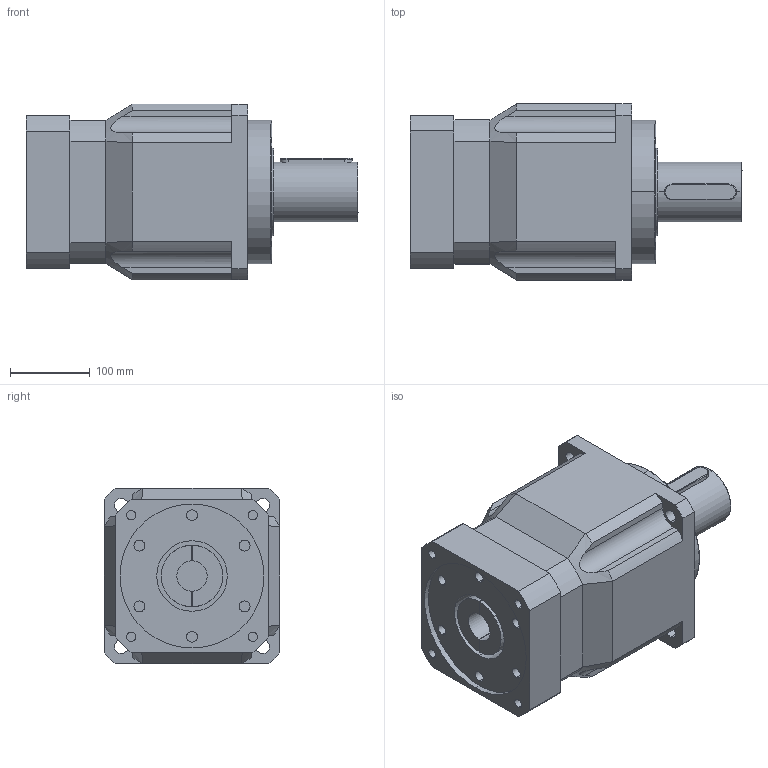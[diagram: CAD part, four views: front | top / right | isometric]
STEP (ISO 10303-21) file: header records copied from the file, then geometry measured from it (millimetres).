
FILE_DESCRIPTION (( 'STEP AP214' ), '1' );
FILE_NAME ('PAB220-L2-35-114-200-M12.STEP', '2019-08-22T02:02:51', ( '微软用户' ), ( '微软中国' ), 'SwSTEP 2.0', 'SolidWorks 2014', '' );
FILE_SCHEMA (( 'AUTOMOTIVE_DESIGN' ));
Length unit declared in the file: millimetre
Products named in the file (2): PAB220-L2-35-114-200-M12
Bounding box: 415 x 220 x 220 mm (x, y, z)
Volume: 11753846.4 mm3; surface area: 422613.8 mm2
Topology: 1 solids, 1 shells, 773 faces, 2177 edges, 1442 vertices
Faces by surface type: plane 622, cylinder 75, bspline 60, torus 8, cone 8
Entity records: 32493 total; most frequent: CARTESIAN_POINT 5931, ORIENTED_EDGE 4350, DIRECTION 3622, EDGE_CURVE 2175, LINE 1862, VECTOR 1862, VERTEX_POINT 1442, AXIS2_PLACEMENT_3D 880
